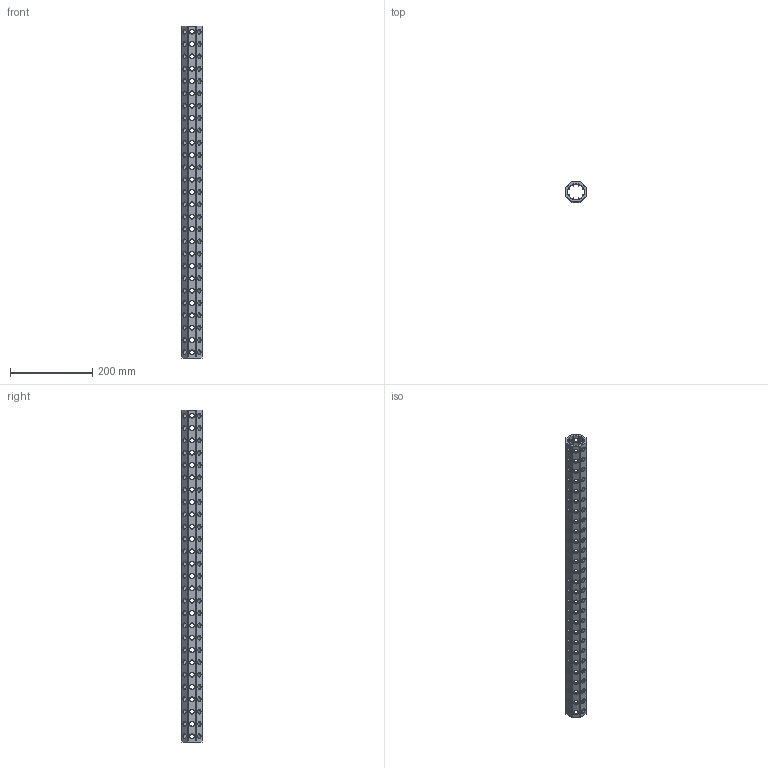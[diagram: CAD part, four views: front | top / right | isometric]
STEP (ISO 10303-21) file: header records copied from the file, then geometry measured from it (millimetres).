
FILE_DESCRIPTION(('CATIA V5 STEP Exchange'),'2;1');
FILE_NAME('U:\Room\唐宝山\EGT002\46-01-010256-01-EGT002-808.stp','2021-08-24T01:08:22+00:00',('none'),('none'),'CATIA Version 5 Release 21 GA (IN-10)','CATIA V5 STEP AP203','none');
FILE_SCHEMA(('CONFIG_CONTROL_DESIGN'));
Products named in the file (1): 46-01-010256-01-EGT002-808
Bounding box: 50 x 50 x 808 mm (x, y, z)
Volume: 575538.3 mm3; surface area: 278548.6 mm2
Topology: 1 solids, 1 shells, 1164 faces, 3216 edges, 2000 vertices
Faces by surface type: cone 648, cylinder 490, plane 26
Entity records: 49762 total; most frequent: CARTESIAN_POINT 21707, ORIENTED_EDGE 6432, DIRECTION 4445, EDGE_CURVE 3216, AXIS2_PLACEMENT_3D 2018, VERTEX_POINT 2000, EDGE_LOOP 1544, VECTOR 1264
